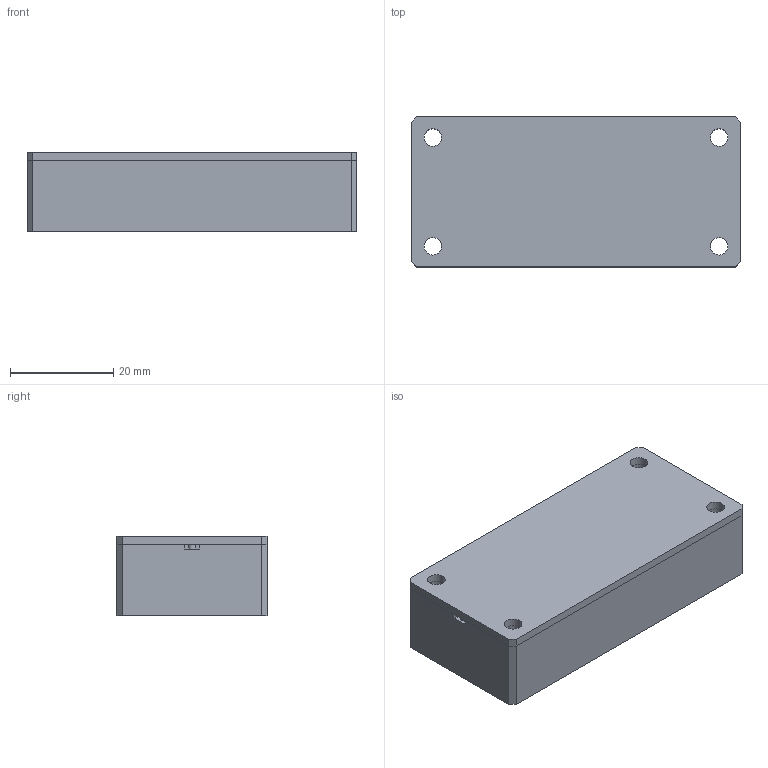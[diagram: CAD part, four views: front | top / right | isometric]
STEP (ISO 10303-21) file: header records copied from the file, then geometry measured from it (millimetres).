
FILE_DESCRIPTION(('Open CASCADE Model'),'2;1');
FILE_NAME('Open CASCADE Shape Model','2026-10-01T18:32:21',('Author'),( 'Open CASCADE'),'Open CASCADE STEP processor 8.0','build123d', 'Unknown');
FILE_SCHEMA(('AUTOMOTIVE_DESIGN { 1 0 10303 214 1 1 1 1 }'));
Length unit declared in the file: millimetre
Products named in the file (13): COMPOUND
Assembly tree (12 placements, depth 2):
  COMPOUND
    COMPOUND
    COMPOUND
    COMPOUND
    COMPOUND
    COMPOUND
    COMPOUND
    COMPOUND
    COMPOUND
    COMPOUND
    COMPOUND
    COMPOUND
    COMPOUND
Bounding box: 63.85 x 29.05 x 15.45 mm (x, y, z)
Volume: 27131.9 mm3; surface area: 18773.1 mm2
Topology: 12 solids, 12 shells, 165 faces, 384 edges, 256 vertices
Faces by surface type: plane 155, cylinder 10
Full cylindrical faces by diameter (mm): 1.5 x1, 1.9 x1, 3.4 x8
Entity records: 9982 total; most frequent: CARTESIAN_POINT 1644, DIRECTION 1472, LINE 1050, VECTOR 1050, ORIENTED_EDGE 768, PCURVE 768, DEFINITIONAL_REPRESENTATION 768, EDGE_CURVE 384
